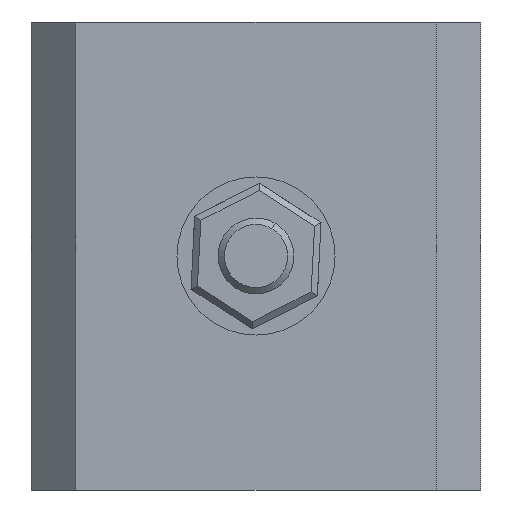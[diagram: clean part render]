
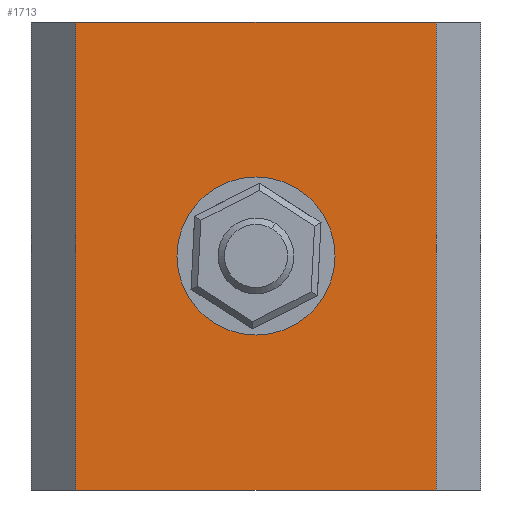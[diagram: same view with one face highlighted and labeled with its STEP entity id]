
A CAD part, front view. The second image highlights one B-rep face of the part: STEP entity #1713.
In plain terms, the highlighted planar face has unit normal (0, -1, 0).
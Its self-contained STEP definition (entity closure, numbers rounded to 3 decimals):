
#32 = DIRECTION ( 'NONE',  ( 0., 1., 0. ) ) ;
#101 = CARTESIAN_POINT ( 'NONE',  ( 14.522, -13.582, 0. ) ) ;
#185 = VERTEX_POINT ( 'NONE', #2109 ) ;
#188 = ORIENTED_EDGE ( 'NONE', *, *, #2775, .F. ) ;
#252 = VERTEX_POINT ( 'NONE', #2395 ) ;
#276 = AXIS2_PLACEMENT_3D ( 'NONE', #1699, #32, #1962 ) ;
#277 = VERTEX_POINT ( 'NONE', #3240 ) ;
#414 = DIRECTION ( 'NONE',  ( 1., 0., 0. ) ) ;
#436 = ORIENTED_EDGE ( 'NONE', *, *, #461, .T. ) ;
#454 = CARTESIAN_POINT ( 'NONE',  ( 14.522, -13.582, 37. ) ) ;
#461 = EDGE_CURVE ( 'NONE', #3431, #277, #2940, .T. ) ;
#587 = ORIENTED_EDGE ( 'NONE', *, *, #3313, .T. ) ;
#684 = EDGE_CURVE ( 'NONE', #252, #185, #2320, .T. ) ;
#760 = CARTESIAN_POINT ( 'NONE',  ( 14.522, -13.582, 37. ) ) ;
#834 = VECTOR ( 'NONE', #3535, 1000. ) ;
#958 = CARTESIAN_POINT ( 'NONE',  ( -13.978, -13.582, 0. ) ) ;
#967 = DIRECTION ( 'NONE',  ( 0., 0., 1. ) ) ;
#1209 = PLANE ( 'NONE',  #1236 ) ;
#1236 = AXIS2_PLACEMENT_3D ( 'NONE', #2042, #2614, #967 ) ;
#1289 = VECTOR ( 'NONE', #2473, 1000. ) ;
#1350 = CARTESIAN_POINT ( 'NONE',  ( 14.522, -13.582, 37. ) ) ;
#1403 = VERTEX_POINT ( 'NONE', #1350 ) ;
#1490 = AXIS2_PLACEMENT_3D ( 'NONE', #2185, #2179, #1906 ) ;
#1521 = CARTESIAN_POINT ( 'NONE',  ( -13.978, -13.582, 37. ) ) ;
#1687 = CIRCLE ( 'NONE', #276, 6.25 ) ;
#1699 = CARTESIAN_POINT ( 'NONE',  ( 0.272, -13.582, 18.5 ) ) ;
#1713 = ADVANCED_FACE ( 'NONE', ( #1717, #3110 ), #1209, .F. ) ;
#1717 = FACE_OUTER_BOUND ( 'NONE', #3585, .T. ) ;
#1812 = EDGE_CURVE ( 'NONE', #3461, #1403, #3496, .T. ) ;
#1905 = CARTESIAN_POINT ( 'NONE',  ( -13.978, -13.582, 37. ) ) ;
#1906 = DIRECTION ( 'NONE',  ( 0., 0., 1. ) ) ;
#1913 = ORIENTED_EDGE ( 'NONE', *, *, #2845, .T. ) ;
#1962 = DIRECTION ( 'NONE',  ( 0., 0., 1. ) ) ;
#2022 = LINE ( 'NONE', #1905, #1289 ) ;
#2042 = CARTESIAN_POINT ( 'NONE',  ( 14.522, -13.582, 37. ) ) ;
#2092 = DIRECTION ( 'NONE',  ( 1., 0., 0. ) ) ;
#2095 = VECTOR ( 'NONE', #2092, 1000. ) ;
#2109 = CARTESIAN_POINT ( 'NONE',  ( -5.978, -13.582, 18.5 ) ) ;
#2179 = DIRECTION ( 'NONE',  ( 0., 1., 0. ) ) ;
#2185 = CARTESIAN_POINT ( 'NONE',  ( 0.272, -13.582, 18.5 ) ) ;
#2320 = CIRCLE ( 'NONE', #1490, 6.25 ) ;
#2373 = LINE ( 'NONE', #760, #834 ) ;
#2395 = CARTESIAN_POINT ( 'NONE',  ( 6.522, -13.582, 18.5 ) ) ;
#2473 = DIRECTION ( 'NONE',  ( 0., 0., -1. ) ) ;
#2614 = DIRECTION ( 'NONE',  ( 0., 1., 0. ) ) ;
#2775 = EDGE_CURVE ( 'NONE', #1403, #277, #2373, .T. ) ;
#2845 = EDGE_CURVE ( 'NONE', #3461, #3431, #2022, .T. ) ;
#2861 = VECTOR ( 'NONE', #414, 1000. ) ;
#2940 = LINE ( 'NONE', #101, #2861 ) ;
#3110 = FACE_BOUND ( 'NONE', #3502, .T. ) ;
#3240 = CARTESIAN_POINT ( 'NONE',  ( 14.522, -13.582, 0. ) ) ;
#3313 = EDGE_CURVE ( 'NONE', #185, #252, #1687, .T. ) ;
#3332 = ORIENTED_EDGE ( 'NONE', *, *, #684, .T. ) ;
#3389 = ORIENTED_EDGE ( 'NONE', *, *, #1812, .F. ) ;
#3431 = VERTEX_POINT ( 'NONE', #958 ) ;
#3461 = VERTEX_POINT ( 'NONE', #1521 ) ;
#3496 = LINE ( 'NONE', #454, #2095 ) ;
#3502 = EDGE_LOOP ( 'NONE', ( #3332, #587 ) ) ;
#3535 = DIRECTION ( 'NONE',  ( 0., 0., -1. ) ) ;
#3585 = EDGE_LOOP ( 'NONE', ( #436, #188, #3389, #1913 ) ) ;
